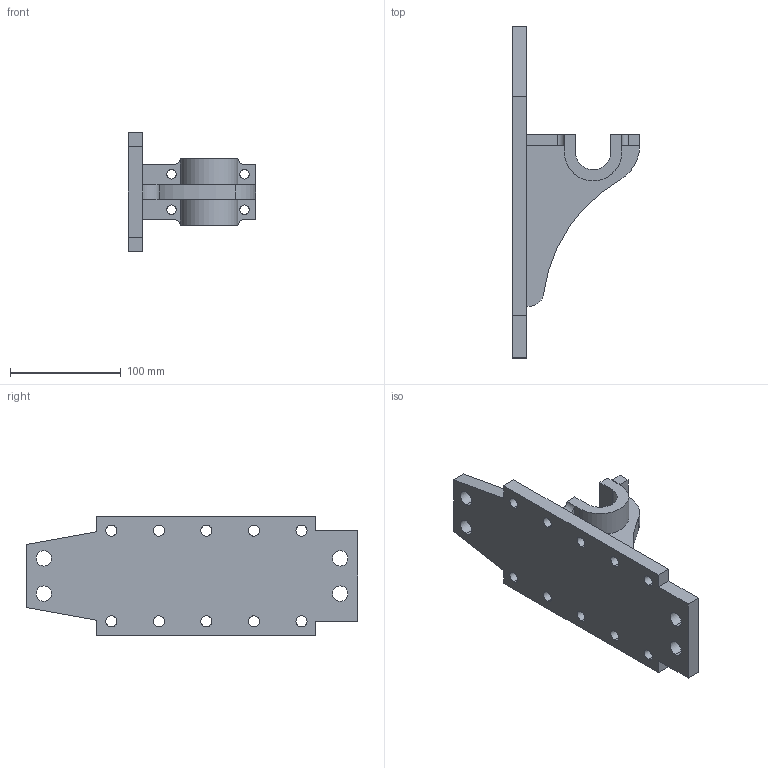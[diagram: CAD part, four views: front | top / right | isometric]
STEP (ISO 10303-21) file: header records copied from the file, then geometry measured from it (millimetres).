
FILE_DESCRIPTION (( 'STEP AP203' ), '1' );
FILE_NAME ('c03_exr02_step.STEP', '2012-06-02T12:12:18', ( '' ), ( '' ), 'SwSTEP 2.0', 'SolidWorks 2012', '' );
FILE_SCHEMA (( 'CONFIG_CONTROL_DESIGN' ));
Length unit declared in the file: millimetre
Products named in the file (1): c03_exr02_step
Bounding box: 115 x 300 x 108 mm (x, y, z)
Volume: 511273.2 mm3; surface area: 102484.8 mm2
Topology: 1 solids, 1 shells, 93 faces, 252 edges, 166 vertices
Faces by surface type: cylinder 54, plane 39
Entity records: 3115 total; most frequent: DIRECTION 548, CARTESIAN_POINT 512, ORIENTED_EDGE 504, EDGE_CURVE 252, AXIS2_PLACEMENT_3D 202, VERTEX_POINT 166, LINE 144, VECTOR 144
